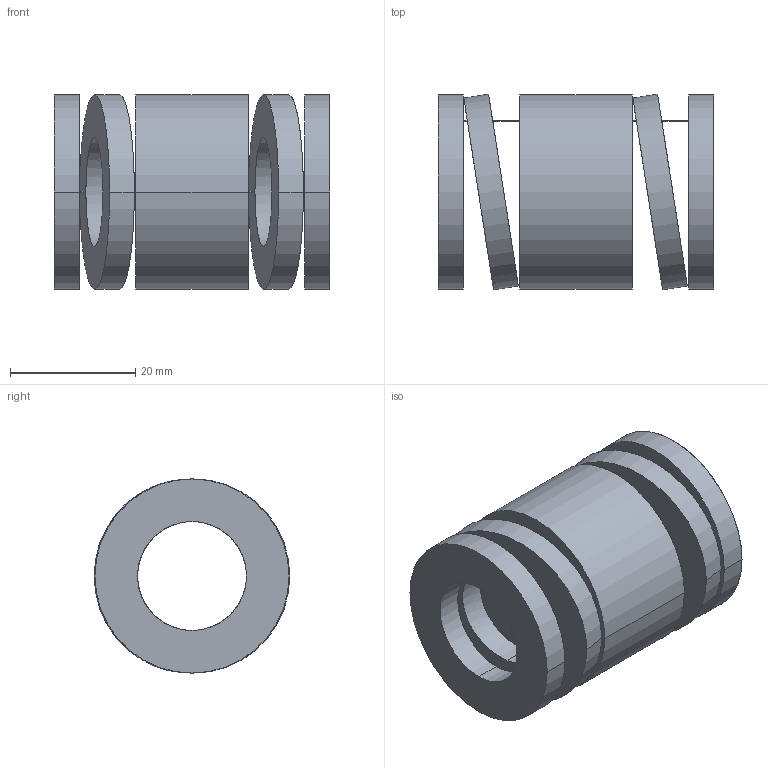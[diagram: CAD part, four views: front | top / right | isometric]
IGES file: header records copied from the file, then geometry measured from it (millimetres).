
Start section: START RECORD GO HERE.
Global section: file name: 392-B32-044.igs; native system: DASSAULT SYSTEMES CATIA V5 R20 - www.3ds.com; preprocessor: CATIA Version 5 Release 20 ; author: Utente; organization: NB04-ASUS; date: 20210813.121134; units: millimetre
Bounding box: 44 x 31.25 x 31 mm (x, y, z)
Surface area: 10339.4 mm2 (no closed solid volume)
Topology: 0 solids, 0 shells, 38 faces, 184 edges, 184 vertices
Faces by surface type: revolution 28, plane 10
